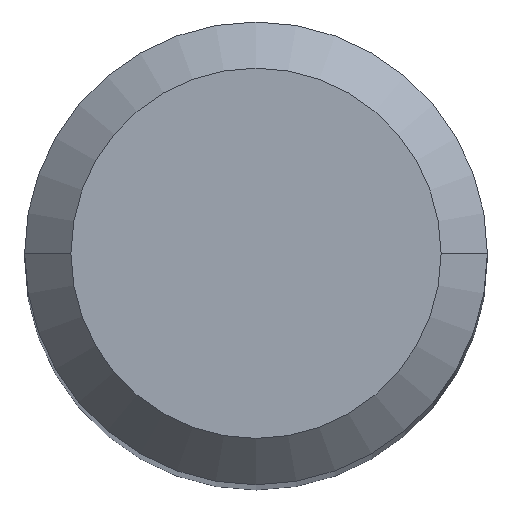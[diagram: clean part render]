
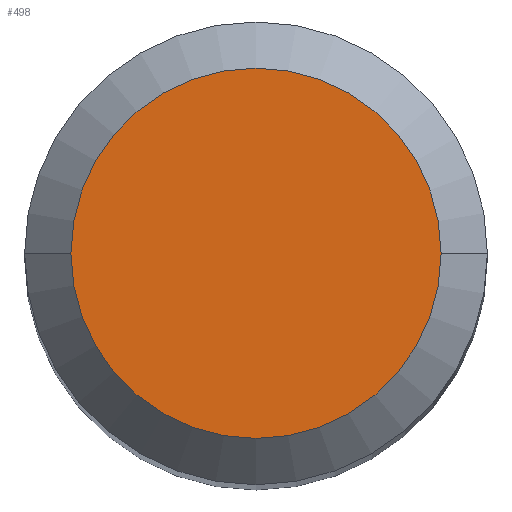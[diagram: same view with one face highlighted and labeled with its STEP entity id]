
A CAD part, top view. The second image highlights one B-rep face of the part: STEP entity #498.
In plain terms, the highlighted planar face has unit normal (0, 0, 1).
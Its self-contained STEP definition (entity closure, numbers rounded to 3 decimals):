
#9 = CIRCLE ( 'NONE', #464, 2.4 ) ;
#11 = CARTESIAN_POINT ( 'NONE',  ( 0., 0., 0. ) ) ;
#20 = VERTEX_POINT ( 'NONE', #569 ) ;
#52 = AXIS2_PLACEMENT_3D ( 'NONE', #256, #70, #164 ) ;
#65 = EDGE_LOOP ( 'NONE', ( #130, #505 ) ) ;
#70 = DIRECTION ( 'NONE',  ( 0., 0., 1. ) ) ;
#87 = VERTEX_POINT ( 'NONE', #344 ) ;
#111 = DIRECTION ( 'NONE',  ( 0., 0., -1. ) ) ;
#130 = ORIENTED_EDGE ( 'NONE', *, *, #462, .F. ) ;
#140 = EDGE_CURVE ( 'NONE', #87, #20, #419, .T. ) ;
#164 = DIRECTION ( 'NONE',  ( 1., 0., 0. ) ) ;
#205 = DIRECTION ( 'NONE',  ( 0., 0., -1. ) ) ;
#256 = CARTESIAN_POINT ( 'NONE',  ( 0., 2.4, 0. ) ) ;
#344 = CARTESIAN_POINT ( 'NONE',  ( 2.4, 0., 0. ) ) ;
#352 = DIRECTION ( 'NONE',  ( -1., 0., 0. ) ) ;
#390 = DIRECTION ( 'NONE',  ( -1., 0., 0. ) ) ;
#419 = CIRCLE ( 'NONE', #530, 2.4 ) ;
#456 = CARTESIAN_POINT ( 'NONE',  ( 0., 0., 0. ) ) ;
#462 = EDGE_CURVE ( 'NONE', #20, #87, #9, .T. ) ;
#464 = AXIS2_PLACEMENT_3D ( 'NONE', #456, #205, #352 ) ;
#498 = ADVANCED_FACE ( 'NONE', ( #502 ), #610, .T. ) ;
#502 = FACE_OUTER_BOUND ( 'NONE', #65, .T. ) ;
#505 = ORIENTED_EDGE ( 'NONE', *, *, #140, .F. ) ;
#530 = AXIS2_PLACEMENT_3D ( 'NONE', #11, #111, #390 ) ;
#569 = CARTESIAN_POINT ( 'NONE',  ( -2.4, 0., 0. ) ) ;
#610 = PLANE ( 'NONE',  #52 ) ;
